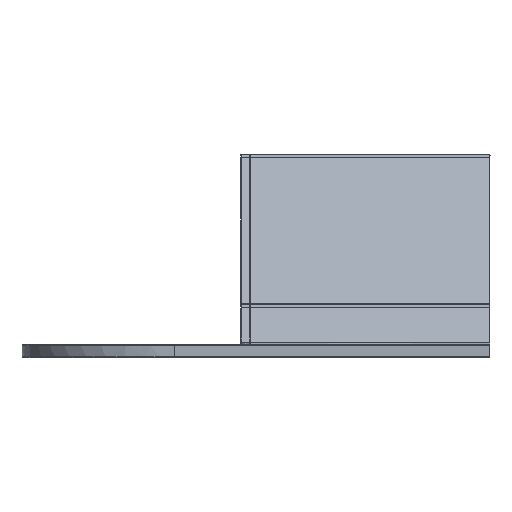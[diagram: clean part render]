
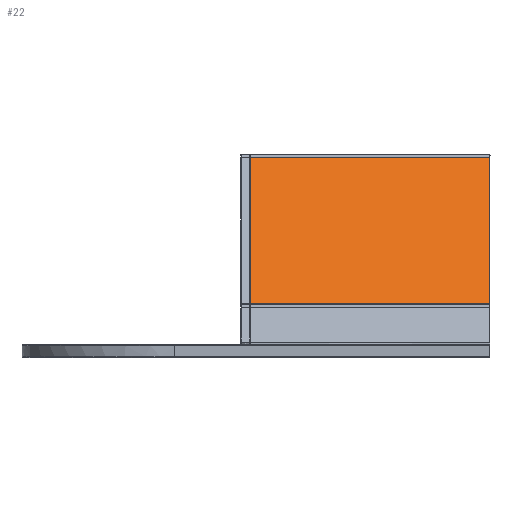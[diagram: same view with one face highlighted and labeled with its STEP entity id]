
A CAD part, front view. The second image highlights one B-rep face of the part: STEP entity #22.
In plain terms, the highlighted free-form (B-spline) face has degree [1, 1] with [2, 2] control points.
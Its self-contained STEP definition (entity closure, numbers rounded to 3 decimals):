
#22=ADVANCED_FACE('',(#163),#4925,.T.);
#163=FACE_OUTER_BOUND('',#304,.T.);
#304=EDGE_LOOP('',(#569,#570,#571,#572));
#569=ORIENTED_EDGE('',*,*,#3948,.F.);
#570=ORIENTED_EDGE('',*,*,#4014,.T.);
#571=ORIENTED_EDGE('',*,*,#4004,.F.);
#572=ORIENTED_EDGE('',*,*,#4015,.T.);
#1233=B_SPLINE_CURVE_WITH_KNOTS('',1,(#6413,#6414),.UNSPECIFIED.,.F.,.F.,
(2,2),(0.,36.481),.UNSPECIFIED.);
#1259=B_SPLINE_CURVE_WITH_KNOTS('',1,(#6750,#6751),.UNSPECIFIED.,.F.,.F.,
(2,2),(1800.,1836.481),.UNSPECIFIED.);
#1260=B_SPLINE_CURVE_WITH_KNOTS('',1,(#6752,#6753),.UNSPECIFIED.,.F.,.F.,
(2,2),(1800.,1836.481),.UNSPECIFIED.);
#1272=B_SPLINE_CURVE_WITH_KNOTS('',1,(#6798,#6799),.UNSPECIFIED.,.F.,.F.,
(2,2),(0.,36.481),.UNSPECIFIED.);
#1273=B_SPLINE_CURVE_WITH_KNOTS('',1,(#6800,#6801),.UNSPECIFIED.,.F.,.F.,
(2,2),(1753.,1800.),.UNSPECIFIED.);
#1274=B_SPLINE_CURVE_WITH_KNOTS('',1,(#6802,#6803),.UNSPECIFIED.,.F.,.F.,
(2,2),(1753.,1800.),.UNSPECIFIED.);
#1275=B_SPLINE_CURVE_WITH_KNOTS('',1,(#6804,#6805),.UNSPECIFIED.,.F.,.F.,
(2,2),(1800.,1836.481),.UNSPECIFIED.);
#1276=B_SPLINE_CURVE_WITH_KNOTS('',1,(#6806,#6807),.UNSPECIFIED.,.F.,.F.,
(2,2),(-1800.,-1753.),.UNSPECIFIED.);
#1277=B_SPLINE_CURVE_WITH_KNOTS('',1,(#6808,#6809),.UNSPECIFIED.,.F.,.F.,
(2,2),(-1800.,-1753.),.UNSPECIFIED.);
#1391=B_SPLINE_CURVE_WITH_KNOTS('',1,(#7078,#7079),.UNSPECIFIED.,.F.,.F.,
(2,2),(-1800.,-1753.),.UNSPECIFIED.);
#1398=B_SPLINE_CURVE_WITH_KNOTS('',1,(#7092,#7093),.UNSPECIFIED.,.F.,.F.,
(2,2),(1753.,1800.),.UNSPECIFIED.);
#2058=PCURVE('',#4922,#2814);
#2115=PCURVE('',#4923,#2871);
#2126=PCURVE('',#4925,#2882);
#2127=PCURVE('',#4925,#2883);
#2128=PCURVE('',#4925,#2884);
#2129=PCURVE('',#4925,#2885);
#2213=PCURVE('',#4842,#2969);
#2219=PCURVE('',#4843,#2975);
#2814=DEFINITIONAL_REPRESENTATION('',(#4350),#8784);
#2871=DEFINITIONAL_REPRESENTATION('',(#1260),#8784);
#2882=DEFINITIONAL_REPRESENTATION('',(#1272),#8784);
#2883=DEFINITIONAL_REPRESENTATION('',(#1274),#8784);
#2884=DEFINITIONAL_REPRESENTATION('',(#1275),#8784);
#2885=DEFINITIONAL_REPRESENTATION('',(#1277),#8784);
#2969=DEFINITIONAL_REPRESENTATION('',(#1391),#8784);
#2975=DEFINITIONAL_REPRESENTATION('',(#1398),#8784);
#3570=SURFACE_CURVE('',#1233,(#2058,#2126),.PCURVE_S1.);
#3626=SURFACE_CURVE('',#1259,(#2115,#2128),.PCURVE_S1.);
#3636=SURFACE_CURVE('',#1273,(#2127,#2219),.PCURVE_S1.);
#3637=SURFACE_CURVE('',#1276,(#2129,#2213),.PCURVE_S1.);
#3948=EDGE_CURVE('',#4646,#4647,#3570,.T.);
#4004=EDGE_CURVE('',#4709,#4710,#3626,.T.);
#4014=EDGE_CURVE('',#4646,#4710,#3636,.T.);
#4015=EDGE_CURVE('',#4709,#4647,#3637,.T.);
#4350=(
BOUNDED_CURVE()
B_SPLINE_CURVE(2,(#6415,#6416,#6417),.UNSPECIFIED.,.F.,.F.)
B_SPLINE_CURVE_WITH_KNOTS((3,3),(0.,36.481),.UNSPECIFIED.)
CURVE()
GEOMETRIC_REPRESENTATION_ITEM()
RATIONAL_B_SPLINE_CURVE((1.,1.,1.))
REPRESENTATION_ITEM('')
);
#4646=VERTEX_POINT('',#5901);
#4647=VERTEX_POINT('',#5902);
#4709=VERTEX_POINT('',#5964);
#4710=VERTEX_POINT('',#5965);
#4842=(
BOUNDED_SURFACE()
B_SPLINE_SURFACE(2,1,((#5139,#5140),(#5141,#5142),(#5143,#5144)),
 .UNSPECIFIED.,.F.,.F.,.F.)
B_SPLINE_SURFACE_WITH_KNOTS((3,3),(2,2),(-112.601,-112.147),
(1224.8,1800.),.UNSPECIFIED.)
GEOMETRIC_REPRESENTATION_ITEM()
RATIONAL_B_SPLINE_SURFACE(((1.,1.),(0.898,0.898),
(1.,1.)))
REPRESENTATION_ITEM('')
SURFACE()
);
#4843=(
BOUNDED_SURFACE()
B_SPLINE_SURFACE(2,1,((#5145,#5146),(#5147,#5148),(#5149,#5150)),
 .UNSPECIFIED.,.F.,.F.,.F.)
B_SPLINE_SURFACE_WITH_KNOTS((3,3),(2,2),(-75.666,-74.302),
(1224.8,1800.),.UNSPECIFIED.)
GEOMETRIC_REPRESENTATION_ITEM()
RATIONAL_B_SPLINE_SURFACE(((1.,1.),(0.898,0.898),
(1.,1.)))
REPRESENTATION_ITEM('')
SURFACE()
);
#4922=B_SPLINE_SURFACE_WITH_KNOTS('',1,1,((#5011,#5012),(#5013,#5014)),
 .UNSPECIFIED.,.F.,.F.,.F.,(2,2),(2,2),(-148.753,57.287),
(-11.04,29.76),.UNSPECIFIED.);
#4923=B_SPLINE_SURFACE_WITH_KNOTS('',1,1,((#5015,#5016),(#5017,#5018)),
 .UNSPECIFIED.,.F.,.F.,.F.,(2,2),(2,2),(0.,37.4),(-119.779,
0.),.UNSPECIFIED.);
#4925=B_SPLINE_SURFACE_WITH_KNOTS('',1,1,((#5023,#5024),(#5025,#5026)),
 .UNSPECIFIED.,.F.,.F.,.F.,(2,2),(2,2),(0.,36.481),(-995.,
155.4),.UNSPECIFIED.);
#5011=CARTESIAN_POINT('',(12006.86,-4616.524,902.1));
#5012=CARTESIAN_POINT('',(12006.86,-4616.524,942.9));
#5013=CARTESIAN_POINT('',(12006.86,-4410.484,902.1));
#5014=CARTESIAN_POINT('',(12006.86,-4410.484,942.9));
#5015=CARTESIAN_POINT('',(11959.86,-4573.393,905.1));
#5016=CARTESIAN_POINT('',(11959.86,-4453.614,905.1));
#5017=CARTESIAN_POINT('',(11959.86,-4573.393,942.5));
#5018=CARTESIAN_POINT('',(11959.86,-4453.614,942.5));
#5023=CARTESIAN_POINT('',(11959.86,-4536.82,941.922));
#5024=CARTESIAN_POINT('',(13110.26,-4536.82,941.922));
#5025=CARTESIAN_POINT('',(11959.86,-4559.236,913.14));
#5026=CARTESIAN_POINT('',(13110.26,-4559.236,913.14));
#5139=CARTESIAN_POINT('',(12535.06,-4559.631,912.947));
#5140=CARTESIAN_POINT('',(11959.86,-4559.631,912.947));
#5141=CARTESIAN_POINT('',(12535.06,-4559.386,912.947));
#5142=CARTESIAN_POINT('',(11959.86,-4559.386,912.947));
#5143=CARTESIAN_POINT('',(12535.06,-4559.236,913.14));
#5144=CARTESIAN_POINT('',(11959.86,-4559.236,913.14));
#5145=CARTESIAN_POINT('',(12535.06,-4536.82,941.922));
#5146=CARTESIAN_POINT('',(11959.86,-4536.82,941.922));
#5147=CARTESIAN_POINT('',(12535.06,-4536.37,942.5));
#5148=CARTESIAN_POINT('',(11959.86,-4536.37,942.5));
#5149=CARTESIAN_POINT('',(12535.06,-4535.637,942.5));
#5150=CARTESIAN_POINT('',(11959.86,-4535.637,942.5));
#5901=CARTESIAN_POINT('',(12006.86,-4536.82,941.922));
#5902=CARTESIAN_POINT('',(12006.86,-4559.236,913.14));
#5964=CARTESIAN_POINT('',(11959.86,-4559.236,913.14));
#5965=CARTESIAN_POINT('',(11959.86,-4536.82,941.922));
#6413=CARTESIAN_POINT('',(12006.86,-4536.82,941.922));
#6414=CARTESIAN_POINT('',(12006.86,-4559.236,913.14));
#6415=CARTESIAN_POINT('',(-69.05,28.782));
#6416=CARTESIAN_POINT('',(-80.257,14.391));
#6417=CARTESIAN_POINT('',(-91.465,0.));
#6750=CARTESIAN_POINT('',(11959.86,-4559.236,913.14));
#6751=CARTESIAN_POINT('',(11959.86,-4536.82,941.922));
#6752=CARTESIAN_POINT('',(8.04,-105.622));
#6753=CARTESIAN_POINT('',(36.822,-83.206));
#6798=CARTESIAN_POINT('',(0.,-948.));
#6799=CARTESIAN_POINT('',(36.481,-948.));
#6800=CARTESIAN_POINT('',(12006.86,-4536.82,941.922));
#6801=CARTESIAN_POINT('',(11959.86,-4536.82,941.922));
#6802=CARTESIAN_POINT('',(0.,-948.));
#6803=CARTESIAN_POINT('',(0.,-995.));
#6804=CARTESIAN_POINT('',(36.481,-995.));
#6805=CARTESIAN_POINT('',(0.,-995.));
#6806=CARTESIAN_POINT('',(11959.86,-4559.236,913.14));
#6807=CARTESIAN_POINT('',(12006.86,-4559.236,913.14));
#6808=CARTESIAN_POINT('',(36.481,-995.));
#6809=CARTESIAN_POINT('',(36.481,-948.));
#7078=CARTESIAN_POINT('',(-112.147,1800.));
#7079=CARTESIAN_POINT('',(-112.147,1753.));
#7092=CARTESIAN_POINT('',(-75.666,1753.));
#7093=CARTESIAN_POINT('',(-75.666,1800.));
#8784=(
GEOMETRIC_REPRESENTATION_CONTEXT(2)
PARAMETRIC_REPRESENTATION_CONTEXT()
REPRESENTATION_CONTEXT('pspace','')
);
